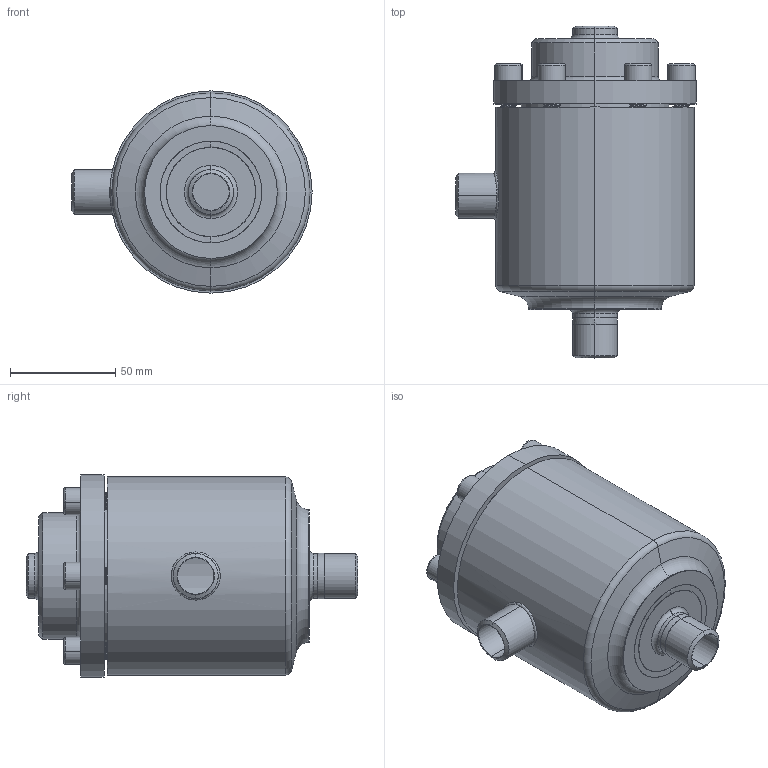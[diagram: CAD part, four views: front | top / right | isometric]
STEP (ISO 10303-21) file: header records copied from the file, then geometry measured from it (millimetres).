
FILE_DESCRIPTION (( 'STEP AP214' ), '1' );
FILE_NAME ('TR47000C10-DN15_R1_PS40.STEP', '2005-08-10T05:23:12', ( 'Herr Grams' ), ( 'AWP GmbH' ), 'SwSTEP 2.0', 'SolidWorks 2002296', '' );
FILE_SCHEMA (( 'AUTOMOTIVE_DESIGN' ));
Length unit declared in the file: millimetre
Products named in the file (12): TR47000C10-DN15_R1_PS40; Führungsring47050-11-DN15-40_Standard; Geh-kpl47000E10-DN15_PS40_R1_Standard; bead10-3_Standard; bead10-2_Standard; bead11-1_Standard; Geh47000E10_DN15_PS40_R1_Standard; Stutzenteil47000E10_DN15_PS40_R1_Standard; RohrstutzA47000E10-DN15_PS40_R1_Standard; RohrstutzE00000-DN15-25_PS40_R1_DN 15; Deckel47000E10_DN15_PS40_R1_Standard; Zylinderschraube-DIN912-M 8x22_M 8x 22
Assembly tree (16 placements, depth 3):
  TR47000C10-DN15_R1_PS40
    Zylinderschraube-DIN912-M 8x22_M 8x 22  x6
    Führungsring47050-11-DN15-40_Standard
    Deckel47000E10_DN15_PS40_R1_Standard
    Geh-kpl47000E10-DN15_PS40_R1_Standard
      bead10-2_Standard
      Geh47000E10_DN15_PS40_R1_Standard
      Stutzenteil47000E10_DN15_PS40_R1_Standard
      RohrstutzE00000-DN15-25_PS40_R1_DN 15
      bead11-1_Standard
      RohrstutzA47000E10-DN15_PS40_R1_Standard
      bead10-3_Standard
Bounding box: 114 x 157.5 x 96 mm (x, y, z)
Volume: 485334.2 mm3; surface area: 123024.2 mm2
Topology: 15 solids, 15 shells, 479 faces, 1222 edges, 790 vertices
Faces by surface type: cylinder 296, plane 91, cone 46, torus 24, bspline 22
Entity records: 22186 total; most frequent: CARTESIAN_POINT 16541, ORIENTED_EDGE 984, DIRECTION 970, EDGE_CURVE 492, AXIS2_PLACEMENT_3D 401, VERTEX_POINT 310, EDGE_LOOP 254, FACE_OUTER_BOUND 209
